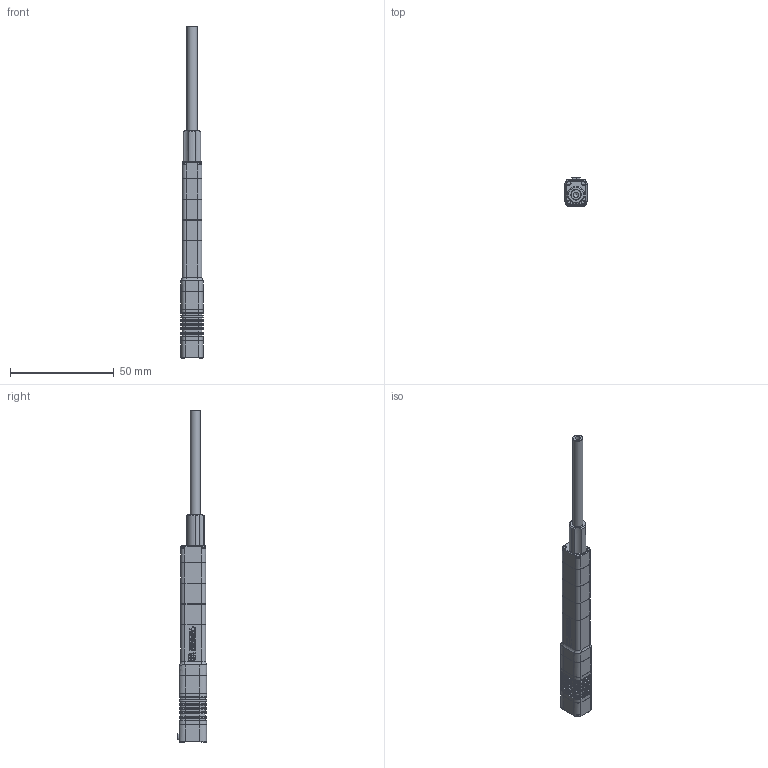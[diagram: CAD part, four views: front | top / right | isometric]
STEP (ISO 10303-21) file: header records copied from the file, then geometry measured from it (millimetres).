
FILE_DESCRIPTION (( 'STEP AP203' ), '1' );
FILE_NAME ('LA50-0x1D-1201.STEP', '2023-12-01T08:59:59', ( '' ), ( '' ), '' );
FILE_SCHEMA (( 'CONFIG_CONTROL_DESIGN' ));
Length unit declared in the file: millimetre
Products named in the file (3): A820150-015芢裝-俋楷; 驱动器L50-1D外发u; LA50-0x1D-1201
Assembly tree (2 placements, depth 2):
  LA50-0x1D-1201
    A820150-015芢裝-俋楷
    驱动器L50-1D外发u
Bounding box: 10.8 x 14 x 160 mm (x, y, z)
Volume: 12101.1 mm3; surface area: 7161.8 mm2
Topology: 2 solids, 2 shells, 1598 faces, 4114 edges, 2642 vertices
Faces by surface type: plane 863, bspline 556, cylinder 124, cone 51, torus 4
Full cylindrical faces by diameter (mm): 2.5 x1, 5 x1
Entity records: 60943 total; most frequent: CARTESIAN_POINT 25565, ORIENTED_EDGE 8214, DIRECTION 5381, EDGE_CURVE 4107, VECTOR 2687, LINE 2687, VERTEX_POINT 2640, EDGE_LOOP 1725
